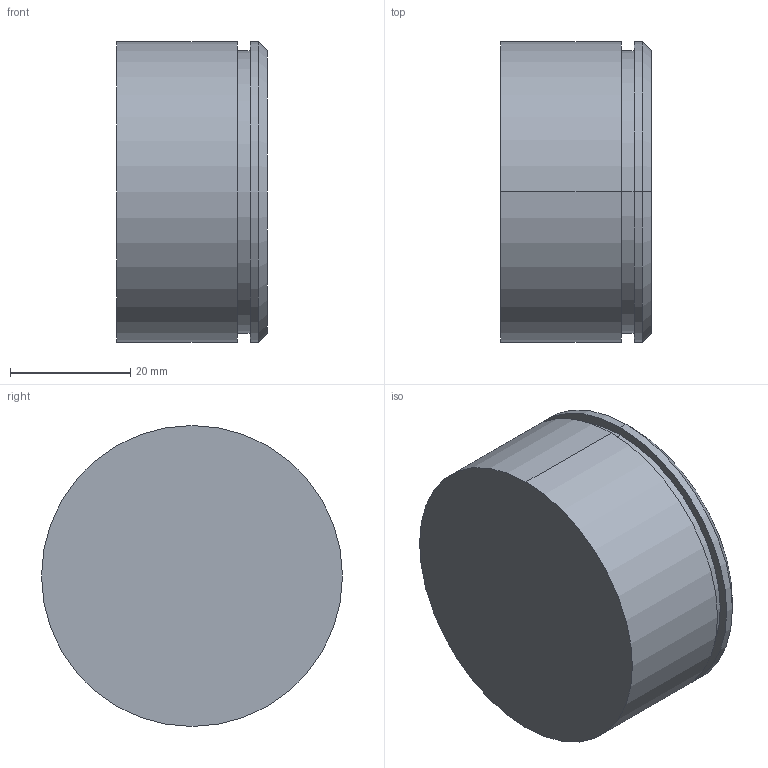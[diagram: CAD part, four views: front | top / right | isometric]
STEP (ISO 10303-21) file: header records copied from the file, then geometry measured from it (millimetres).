
FILE_DESCRIPTION (( 'STEP AP203' ), '1' );
FILE_NAME ('S5-50.STEP', '2002-08-16T10:51:01', ( '.' ), ( '.' ), 'SwSTEP 2.0', 'SolidWorks 2001340', '' );
FILE_SCHEMA (( 'CONFIG_CONTROL_DESIGN' ));
Length unit declared in the file: millimetre
Products named in the file (1): S5-50
Bounding box: 25 x 50 x 50 mm (x, y, z)
Volume: 48422.8 mm3; surface area: 8149.9 mm2
Topology: 1 solids, 1 shells, 12 faces, 22 edges, 14 vertices
Faces by surface type: cylinder 6, plane 4, cone 2
Entity records: 381 total; most frequent: DIRECTION 62, CARTESIAN_POINT 49, ORIENTED_EDGE 44, AXIS2_PLACEMENT_3D 27, EDGE_CURVE 22, VERTEX_POINT 14, CIRCLE 14, EDGE_LOOP 14
